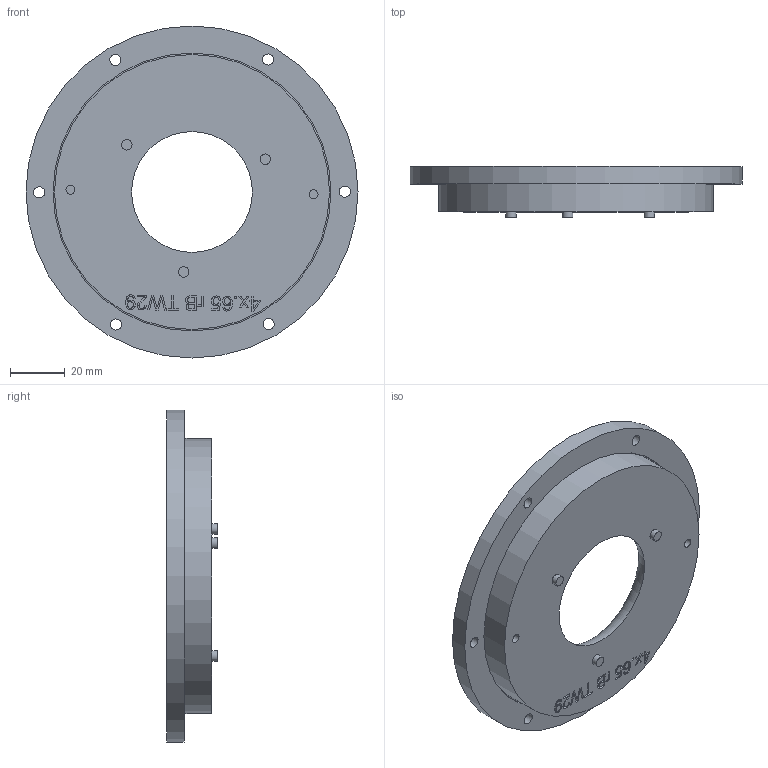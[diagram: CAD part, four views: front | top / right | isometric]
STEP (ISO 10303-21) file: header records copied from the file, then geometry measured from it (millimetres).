
FILE_DESCRIPTION(/* description */ (''),/* implementation_level */ '2;1');
FILE_NAME(/* name */ '4x.65 rB nops.step',/* time_stamp */ '2023-05-21T16:28:53-06:00',/* author */ (''),/* organization */ (''),/* preprocessor_version */ 'ST-DEVELOPER v19.2',/* originating_system */ 'Autodesk Translation Framework v12.4.0.73',/* authorisation */ '');
FILE_SCHEMA (('AUTOMOTIVE_DESIGN { 1 0 10303 214 3 1 1 }'));
Length unit declared in the file: inch
Products named in the file (1): 4x.65 rB OS tw29
Bounding box: 121.41 x 18.54 x 121.41 mm (x, y, z)
Volume: 102108.8 mm3; surface area: 28557.5 mm2
Topology: 1 solids, 1 shells, 261 faces, 692 edges, 461 vertices
Faces by surface type: bspline 128, plane 110, cylinder 20, torus 3
Full cylindrical faces by diameter (mm): 3.302 x2, 3.81 x3, 4.064 x6, 8.382 x6, 100.584 x1, 101.6 x1, 121.412 x1
Entity records: 9298 total; most frequent: CARTESIAN_POINT 3591, ORIENTED_EDGE 1384, DIRECTION 752, EDGE_CURVE 692, VERTEX_POINT 461, LINE 388, VECTOR 388, EDGE_LOOP 303
